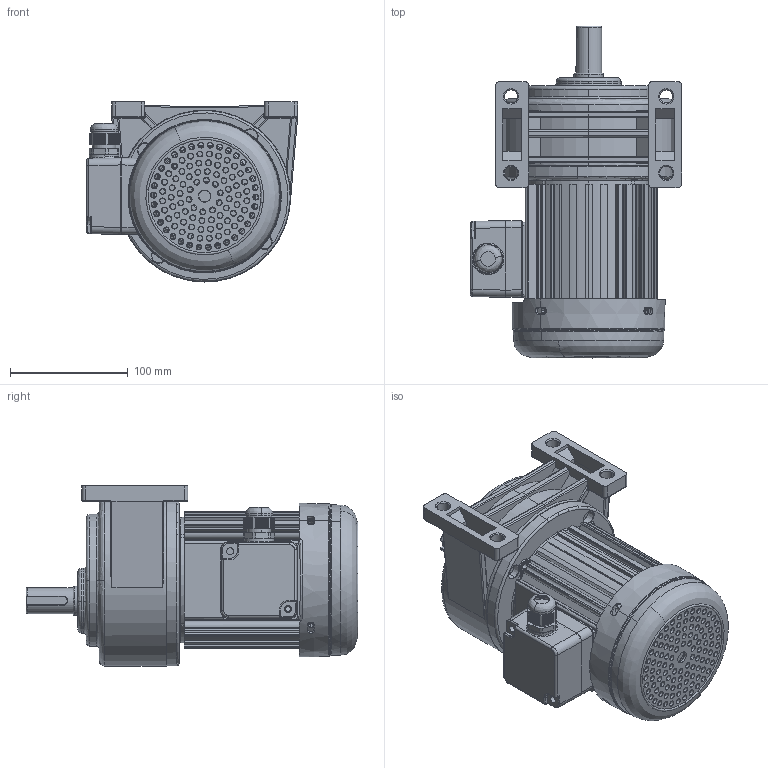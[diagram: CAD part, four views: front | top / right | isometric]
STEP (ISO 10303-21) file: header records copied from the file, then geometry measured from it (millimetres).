
FILE_DESCRIPTION (( 'STEP AP203' ), '1' );
FILE_NAME ('100W配2#卧式.STEP', '2019-06-19T03:58:24', ( '微软中国' ), ( '微软用户' ), 'SwSTEP 2.0', 'SolidWorks 2012', '' );
FILE_SCHEMA (( 'CONFIG_CONTROL_DESIGN' ));
Length unit declared in the file: millimetre
Products named in the file (10): 100W饜2#拏宒; 2#拏宒熬厒ん; 2xg100w200w; 100W 儂褲; 坶踡ん 蚾饜; 苤諉盄碟 裔; 苤諉盄碟釱; 釱菜; 100W瑞欶; 100W綴傷裔 2_25
Assembly tree (9 placements, depth 2):
  100W饜2#拏宒
    100W綴傷裔 2_25
    100W瑞欶
    釱菜
    苤諉盄碟釱
    苤諉盄碟 裔
    坶踡ん 蚾饜
    100W 儂褲
    2xg100w200w
    2#拏宒熬厒ん
Bounding box: 179.5 x 282.06 x 153 mm (x, y, z)
Volume: 1682791.9 mm3; surface area: 419532 mm2
Topology: 6 solids, 10 shells, 2606 faces, 6906 edges, 4360 vertices
Faces by surface type: cylinder 778, bspline 686, plane 667, torus 252, cone 185, sphere 38
Entity records: 120204 total; most frequent: CARTESIAN_POINT 59769, ORIENTED_EDGE 13688, DIRECTION 10549, EDGE_CURVE 6874, VERTEX_POINT 4360, AXIS2_PLACEMENT_3D 4114, EDGE_LOOP 2985, ADVANCED_FACE 2606
